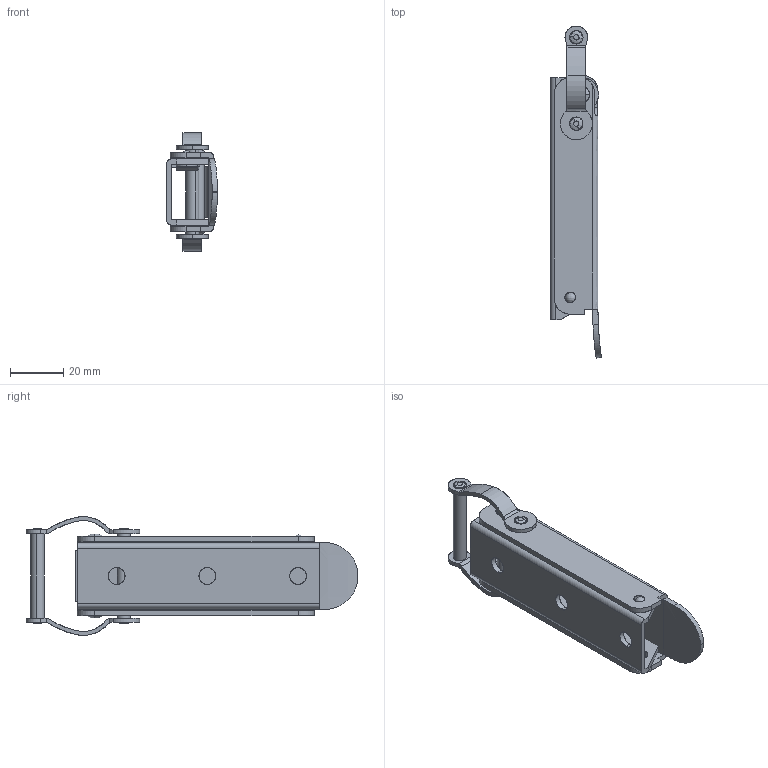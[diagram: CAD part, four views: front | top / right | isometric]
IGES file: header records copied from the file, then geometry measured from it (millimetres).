
Start section: SolidWorks IGES FILE using analytic representation for surfaces
Global section: file name: C:\WINNT\Profiles\cbrechard\Bureau\GE 35\GE 35.IGS; native system: SolidWorks 2001Plus by SolidWorks Corporation; preprocessor: Version 5.3; author: CBRECHARD; date: 050124.172727; units: millimetre
Bounding box: 19.05 x 124.4 x 44.47 mm (x, y, z)
Surface area: 24881.6 mm2 (no closed solid volume)
Topology: 0 solids, 0 shells, 234 faces, 4138 edges, 4138 vertices
Faces by surface type: revolution 121, bspline 113
